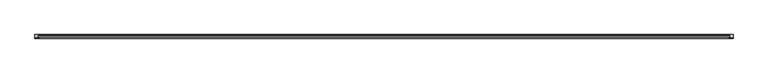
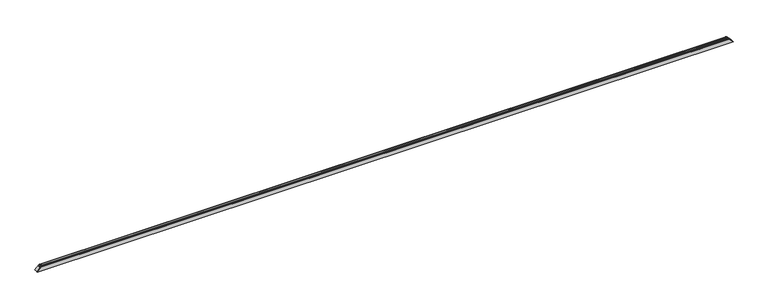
"""IFC4 building model written with IfcOpenShell, lengths in millimetres: proxy geometry, Weiku - Montante - Caixilho 02.2.01.005 : Weiku - Montante - Caixilho 02.2.01.005."""

from ifc_helpers import new_model, si_unit, frame, origin, place, context, project, spatial, ellipse_curve, faceted_brep, source, transform, mapped, element, save
from ifc_brep_helpers import plane_surface, cylinder_surface, advanced_brep


def generic_models_93c5d19a(model_context):
    return source(origin(), model_context, "Body", "SolidModel", [
        faceted_brep([(-4962.0, -43.5137905, 0.0), (-4963.0, -43.5137905, -1.0), (-4963.0, -52.0, -1.0), (-4911.0, -52.0, 51.0), (-4911.0, -43.5137905, 51.0), (-4913.0, -43.5137905, 49.0), (-4913.0, -50.0, 49.0), (-4962.0, -50.0, 0.0), (4962.0, -50.0, 0.0), (4913.0, -50.0, 49.0), (4913.0, -43.5137905, 49.0), (4911.0, -43.5137905, 51.0), (4911.0, -52.0, 51.0), (4963.0, -52.0, -1.0), (4963.0, -43.5137905, -1.0), (4962.0, -43.5137905, 0.0)], [[[0, 1, 2, 3, 4, 5, 6, 7]], [[8, 9, 10, 11, 12, 13, 14, 15]], [[7, 8, 15, 0]], [[6, 9, 8, 7]], [[5, 10, 9, 6]], [[4, 11, 10, 5]], [[3, 12, 11, 4]], [[2, 13, 12, 3]], [[1, 14, 13, 2]], [[0, 15, 14, 1]]]),
        advanced_brep(
        [(-4916.0, -12.5, 46.0), (4916.0, -12.5, 46.0), (4895.8909676, -12.5, 66.1090324), (-4895.8909676, -12.5, 66.1090324), (-4916.0, -37.8314286, 46.0), (4916.0, -37.8314286, 46.0), (-4913.0, -37.027581, 49.0), (4913.0, -37.027581, 49.0), (-4913.0, -50.0, 49.0), (4913.0, -50.0, 49.0), (4962.0, -50.0, 0.0), (-4962.0, -50.0, 0.0), (-4962.0, 0.0, 0.0), (4962.0, 0.0, 0.0), (-4900.4997332, 0.0, 61.5002668), (4900.4997332, 0.0, 61.5002668), (-4895.118227, -11.4929448, 66.881773), (4895.118227, -11.4929448, 66.881773), (4897.6019557, -2.2235429, 64.3980443), (-4897.6019557, -2.2235429, 64.3980443)],
        [
            (0, 1),
            (1, 2),
            (2, 3),
            (3, 0),
            (4, 5),
            (5, 1),
            (0, 4),
            (6, 7),
            (7, 5),
            (4, 6),
            (8, 9),
            (9, 7),
            (6, 8),
            (10, 9),
            (8, 11),
            (11, 10),
            (11, 12),
            (12, 13),
            (13, 10),
            (12, 14),
            (14, 15),
            (15, 13),
            (16, 17),
            (17, 18),
            (18, 19),
            (19, 16),
            (3, 16, ellipse_curve(frame((-4895.8909676, -11.7, 66.1090324), z_axis=(-0.7071067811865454, 0.0, 0.7071067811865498), x_axis=(-0.7071067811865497, 0.0, -0.7071067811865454)), 1.1313708, 0.8)),
            (19, 14, ellipse_curve(frame((-4900.4997332, -3.0, 61.5002668), z_axis=(-0.7071067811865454, 0.0, 0.7071067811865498), x_axis=(-0.7071067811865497, 0.0, -0.7071067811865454)), 4.2426407, 3.0)),
            (15, 18, ellipse_curve(frame((4900.4997332, -3.0, 61.5002668), z_axis=(0.7071067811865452, 0.0, 0.7071067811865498), x_axis=(-0.7071067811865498, 0.0, 0.7071067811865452)), 4.2426407, 3.0)),
            (17, 2, ellipse_curve(frame((4895.8909676, -11.7, 66.1090324), z_axis=(0.7071067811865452, 0.0, 0.7071067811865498), x_axis=(-0.7071067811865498, 0.0, 0.7071067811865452)), 1.1313708, 0.8)),
        ],
        [
            plane_surface(frame((-4962.0, -12.5, 66.1090324), z_axis=(0.0, -1.0, 0.0), x_axis=(1.0, 0.0, 0.0))),
            plane_surface(frame((-4962.0, -12.5, 46.0), z_axis=(0.0, 0.0, 1.0), x_axis=(1.0, 0.0, 0.0))),
            plane_surface(frame((-4962.0, -37.8314286, 46.0), z_axis=(0.0, 0.9659258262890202, -0.2588190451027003), x_axis=(1.0, 0.0, 0.0))),
            plane_surface(frame((-4962.0, -37.027581, 49.0), z_axis=(0.0, 0.0, 1.0), x_axis=(1.0, 0.0, 0.0))),
            plane_surface(frame((-4962.0, -50.0, 49.0), z_axis=(0.0, -1.0, 0.0), x_axis=(1.0, 0.0, 0.0))),
            plane_surface(frame((-4962.0, -50.0, 0.0), z_axis=(0.0, 0.0, -1.0), x_axis=(1.0, 0.0, 0.0))),
            plane_surface(frame((-4962.0, 0.0, 0.0), z_axis=(0.0, 1.0, 0.0), x_axis=(1.0, 0.0, 0.0))),
            plane_surface(frame((-4962.0, -2.2235429, 64.3980443), z_axis=(0.0, 0.2588190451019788, 0.9659258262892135), x_axis=(1.0, 0.0, 0.0))),
            plane_surface(frame((-5032.0, 15.0, -70.0), z_axis=(-0.7071067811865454, 0.0, 0.7071067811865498), x_axis=(0.0, -1.0, 0.0))),
            plane_surface(frame((4892.0, 15.0, 70.0), z_axis=(0.7071067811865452, 0.0, 0.7071067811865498), x_axis=(0.0, -1.0, 0.0))),
            cylinder_surface(frame((-4962.0, -11.7, 66.1090324), z_axis=(-1.0, 0.0, 0.0), x_axis=(0.0, -1.0, 0.0)), 0.8),
            cylinder_surface(frame((-4962.0, -3.0, 61.5002668), z_axis=(-1.0, 0.0, 0.0), x_axis=(0.0, -1.0, 0.0)), 3.0),
        ],
        [
            (0, [[1, 2, 3, 4]]),
            (1, [[5, 6, -1, 7]]),
            (2, [[8, 9, -5, 10]]),
            (3, [[11, 12, -8, 13]]),
            (4, [[14, -11, 15, 16]]),
            (5, [[17, 18, 19, -16]]),
            (6, [[20, 21, 22, -18]]),
            (7, [[23, 24, 25, 26]]),
            (8, [[27, -26, 28, -20, -17, -15, -13, -10, -7, -4]]),
            (9, [[-6, -9, -12, -14, -19, -22, 29, -24, 30, -2]]),
            (10, [[-3, -30, -23, -27]]),
            (11, [[-25, -29, -21, -28]]),
        ],
    ),
    ])


if __name__ == "__main__":
    model = new_model("IFC4")
    model_context = context("Model", 3, world=origin())
    ifc_project = project(units=[si_unit("LENGTHUNIT", "METRE", prefix="MILLI")], contexts=[model_context])
    site = spatial("IfcSite", under=ifc_project)
    building = spatial("IfcBuilding", under=site)
    placement = place(None, origin())
    generic_models_shape = generic_models_93c5d19a(model_context)
    element("IfcBuildingElementProxy", 1, Name="Weiku - Montante - Caixilho 02.2.01.005 : Weiku - Montante - Caixilho 02.2.01.005", ObjectType="Weiku - Montante - Caixilho 02.2.01.005 : Weiku - Montante - Caixilho 02.2.01.005", at=placement, inside=building, context=model_context, shape_type="MappedRepresentation", body=[
        mapped(generic_models_shape, transform((0.0, 0.0, 0.0), x_axis=(1.0, 0.0, 0.0), y_axis=(0.0, 1.0, 0.0), z_axis=(0.0, 0.0, 1.0))),
    ])
    save(model, "model.ifc")
